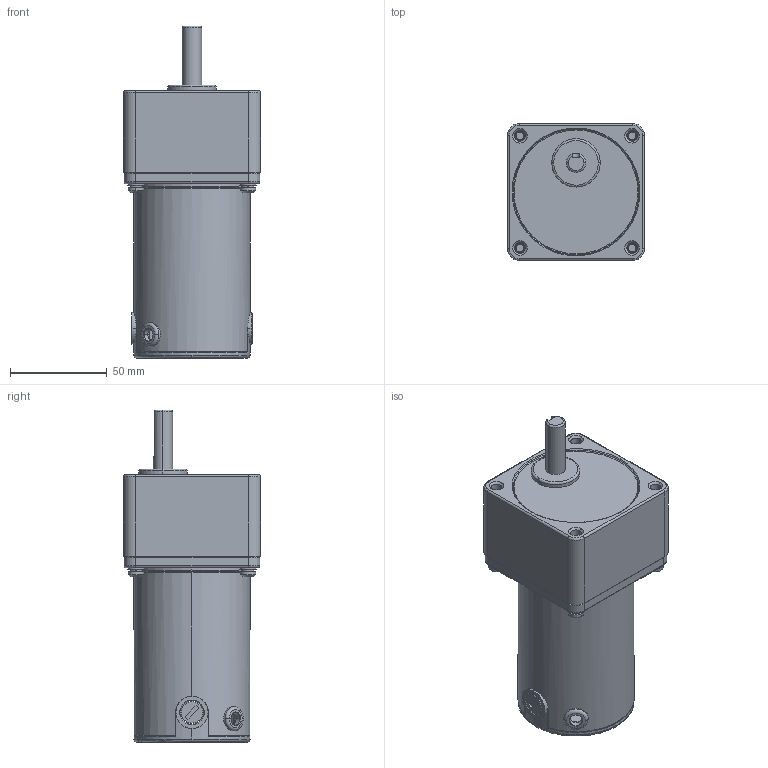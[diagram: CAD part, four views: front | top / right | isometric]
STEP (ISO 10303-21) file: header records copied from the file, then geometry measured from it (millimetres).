
FILE_DESCRIPTION (( 'STEP AP203' ), '1' );
FILE_NAME ('70 85儂褲俋离.STEP', '2021-07-17T00:35:48', ( '' ), ( '' ), 'SwSTEP 2.0', 'SolidWorks 2019', '' );
FILE_SCHEMA (( 'CONFIG_CONTROL_DESIGN' ));
Length unit declared in the file: millimetre
Products named in the file (15): 70喘謫眊_1; P-70; L-70-11; Q-70; 蚾饜极75^70 65儂褲俋离; 蚾饜极72^70 65儂褲俋离; L-70; 70-H; 70 85儂褲俋离; 蚾饜极74^70 65儂褲俋离; 装配体76^装配体72_70 65机壳外置; J-70; 蚾饜极73^70 65儂褲俋离; T-70; 蚾饜极63^70 85儂褲俋离
Assembly tree (24 placements, depth 5):
  70 85儂褲俋离
    蚾饜极63^70 85儂褲俋离
      蚾饜极73^70 65儂褲俋离
        T-70
        P-70
        L-70-11
      蚾饜极72^70 65儂褲俋离
        装配体76^装配体72_70 65机壳外置
          T-70
          P-70
          L-70-11
      蚾饜极75^70 65儂褲俋离
        P-70
        L-70-11
        T-70
      蚾饜极74^70 65儂褲俋离
        P-70
        L-70-11
        T-70
      70-H
      J-70
      Q-70
      70喘謫眊_1
    L-70  x2
Bounding box: 70.8 x 70.8 x 171.5 mm (x, y, z)
Volume: 282730.7 mm3; surface area: 83471.9 mm2
Topology: 21 solids, 21 shells, 533 faces, 1275 edges, 792 vertices
Faces by surface type: cylinder 179, plane 166, cone 153, bspline 25, torus 10
Entity records: 12623 total; most frequent: CARTESIAN_POINT 3112, DIRECTION 1709, ORIENTED_EDGE 1540, EDGE_CURVE 770, AXIS2_PLACEMENT_3D 684, VERTEX_POINT 487, EDGE_LOOP 365, CIRCLE 348
